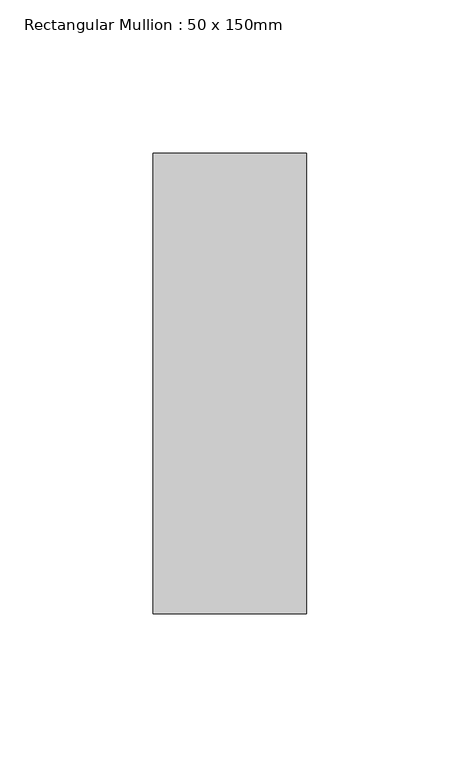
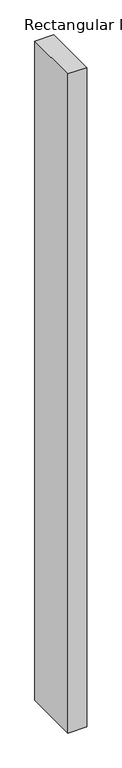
"""IFC4 building model written with IfcOpenShell, lengths in millimetres: member geometry, Rectangular Mullion : 50 x 150mm."""

import ifcopenshell
import ifcopenshell.guid

model = None  # the IFC model being written
_history = None  # IfcOwnerHistory: only IFC2X3 demands one
_inside = {}  # id of a spatial element -> (the spatial element, [elements in it])
_under = {}  # id of a project, library or spatial element -> (it, [spatial elements below it])
_declared = {}  # id of a project -> (the project, [libraries it declares])
_typed = {}  # id of a type object -> (the type object, [elements of that type])
_made_of = {}  # id of a material, layer set ... -> (it, [elements and type objects made of it])


def new_model(schema):
    """Start an empty IFC model of exactly this schema.

    Asked for "IFC4X3", IfcOpenShell would pick the latest addendum, in which some entities
    have other attributes; the version numbers below select the first issue.
    IFC2X3 requires an IfcOwnerHistory on every rooted entity: one is made here for all.
    """
    global model, _history
    if schema == "IFC4X3":
        model = ifcopenshell.file(schema_version=(4, 3, 0, 0))
    else:
        model = ifcopenshell.file(schema=schema)
    _inside.clear()
    _under.clear()
    _declared.clear()
    _typed.clear()
    _made_of.clear()
    _history = None
    if model.schema == "IFC2X3":
        org = make("IfcOrganization", Name="unknown")
        user = make(
            "IfcPersonAndOrganization",
            ThePerson=make("IfcPerson", FamilyName="unknown"),
            TheOrganization=org,
        )
        app = make(
            "IfcApplication",
            ApplicationDeveloper=org,
            Version="unknown",
            ApplicationFullName="unknown",
            ApplicationIdentifier="unknown",
        )
        _history = make(
            "IfcOwnerHistory",
            OwningUser=user,
            OwningApplication=app,
            ChangeAction="ADDED",
            CreationDate=0,
        )
    return model


def make(cls, **values):
    """One entity of the class cls with the attributes given. An attribute that is None is left unset."""
    return model.create_entity(
        cls, **{name: value for name, value in values.items() if value is not None}
    )


def rooted(cls, **values):
    """An entity with a GlobalId (a new one), such as an element, a storey or a relation."""
    return make(cls, GlobalId=ifcopenshell.guid.new(), OwnerHistory=_history, **values)


def si_unit(unit_type, name, prefix=None):
    """IfcSIUnit, for example si_unit("LENGTHUNIT", "METRE", prefix="MILLI")."""
    return make("IfcSIUnit", UnitType=unit_type, Prefix=prefix, Name=name)


def assignment(units):
    """IfcUnitAssignment: the units of a project."""
    return None if units is None else make("IfcUnitAssignment", Units=units)


def point(xyz):
    """IfcCartesianPoint."""
    return None if xyz is None else make("IfcCartesianPoint", Coordinates=xyz)


def direction(xyz):
    """IfcDirection."""
    return None if xyz is None else make("IfcDirection", DirectionRatios=xyz)


def frame(location, z_axis=None, x_axis=None):
    """IfcAxis2Placement3D, a coordinate frame: its origin and axes. An axis left out is left unset."""
    return make(
        "IfcAxis2Placement3D",
        Location=point(location),
        Axis=direction(z_axis),
        RefDirection=direction(x_axis),
    )


def origin():
    """The frame at (0, 0, 0) with its axes left unset."""
    return frame((0.0, 0.0, 0.0))


def place(relative_to, where):
    """IfcLocalPlacement: puts the frame where relative to a parent placement (None: the world)."""
    return make(
        "IfcLocalPlacement", PlacementRelTo=relative_to, RelativePlacement=where
    )


def context(
    kind, dimensions, precision=None, world=None, true_north=None, identifier=None
):
    """IfcGeometricRepresentationContext, for example the 3D "Model" context."""
    return make(
        "IfcGeometricRepresentationContext",
        ContextIdentifier=identifier,
        ContextType=kind,
        CoordinateSpaceDimension=dimensions,
        Precision=precision,
        WorldCoordinateSystem=world,
        TrueNorth=true_north,
    )


def project(units=None, contexts=None):
    """IfcProject with its units and contexts."""
    return rooted(
        "IfcProject",
        Name="project",
        RepresentationContexts=contexts,
        UnitsInContext=assignment(units),
    )


def spatial(cls, under=None, at=None, **own):
    """A site, building, storey or space (cls), placed at a placement, below another one or the project."""
    s = rooted(cls, ObjectPlacement=at, **own)
    if under is not None:
        _under.setdefault(under.id(), (under, []))[1].append(s)
    return s


def polyline(points):
    """IfcPolyline through the points."""
    return make("IfcPolyline", Points=[point(p) for p in points])


def outline(outer, holes=None, kind="AREA"):
    """IfcArbitraryClosedProfileDef: a profile drawn as a closed curve; with holes, ...WithVoids."""
    if holes is None:
        return make("IfcArbitraryClosedProfileDef", ProfileType=kind, OuterCurve=outer)
    return make(
        "IfcArbitraryProfileDefWithVoids",
        ProfileType=kind,
        OuterCurve=outer,
        InnerCurves=holes,
    )


def extrude(swept, where, along, depth):
    """IfcExtrudedAreaSolid: the profile swept, set in the frame where, extruded along a direction by depth."""
    return make(
        "IfcExtrudedAreaSolid",
        SweptArea=swept,
        Position=where,
        ExtrudedDirection=direction(along),
        Depth=depth,
    )


def shape(context_of_items, identifier, shape_type, items):
    """IfcShapeRepresentation: the items that make up one representation, for example the "Body"."""
    return make(
        "IfcShapeRepresentation",
        ContextOfItems=context_of_items,
        RepresentationIdentifier=identifier,
        RepresentationType=shape_type,
        Items=items,
    )


def source(mapping_origin, context_of_items, identifier, shape_type, items):
    """IfcRepresentationMap: a shape defined once, which mapped items show again and again."""
    return make(
        "IfcRepresentationMap",
        MappingOrigin=mapping_origin,
        MappedRepresentation=shape(context_of_items, identifier, shape_type, items),
    )


def transform(
    local_origin,
    x_axis=None,
    y_axis=None,
    z_axis=None,
    scale=None,
    scale2=None,
    scale3=None,
    uniform=True,
):
    """IfcCartesianTransformationOperator3D, or its non-uniform kind. x_axis, y_axis, z_axis: its Axis1, 2, 3."""
    if uniform:
        return make(
            "IfcCartesianTransformationOperator3D",
            Axis1=direction(x_axis),
            Axis2=direction(y_axis),
            LocalOrigin=point(local_origin),
            Scale=scale,
            Axis3=direction(z_axis),
        )
    return make(
        "IfcCartesianTransformationOperator3DnonUniform",
        Axis1=direction(x_axis),
        Axis2=direction(y_axis),
        LocalOrigin=point(local_origin),
        Scale=scale,
        Axis3=direction(z_axis),
        Scale2=scale2,
        Scale3=scale3,
    )


def mapped(mapping_source, mapping_target):
    """IfcMappedItem: shows the shape of a source again, moved by a transform."""
    return make(
        "IfcMappedItem", MappingSource=mapping_source, MappingTarget=mapping_target
    )


def made_of(thing, what):
    """Note that an element or type object is made of a material, layer set ...; save() writes the relation."""
    if what is not None:
        _made_of.setdefault(what.id(), (what, []))[1].append(thing)
    return thing


def element(
    cls,
    number,
    at=None,
    inside=None,
    cuts=None,
    type_object=None,
    material=None,
    context=None,
    identifier="Body",
    shape_type=None,
    held_by="IfcProductDefinitionShape",
    body=None,
    shapes=None,
    **own,
):
    """One element of the class cls, such as IfcWall. Its Tag is "e" and its number.

    at: its placement. inside: the storey or other place that contains it. cuts: it is an
    opening in that element (IfcRelVoidsElement). A single representation is given by context,
    identifier, shape_type and body (its items); several are given by shapes. held_by: the class
    of the entity that holds the representations. save() writes the other relations.
    """
    e = rooted(cls, Tag="e%d" % number, ObjectPlacement=at, **own)
    if body is not None:
        shapes = [shape(context, identifier, shape_type, body)]
    if shapes is not None:
        e.Representation = make(held_by, Representations=shapes)
    if inside is not None:
        _inside.setdefault(inside.id(), (inside, []))[1].append(e)
    if cuts is not None:
        rooted(
            "IfcRelVoidsElement", RelatingBuildingElement=cuts, RelatedOpeningElement=e
        )
    if type_object is not None:
        _typed.setdefault(type_object.id(), (type_object, []))[1].append(e)
    return made_of(e, material)


def aggregate(whole, parts):
    """IfcRelAggregates: a whole, such as a stair, and the parts it consists of."""
    return rooted("IfcRelAggregates", RelatingObject=whole, RelatedObjects=parts)


def save(model, path):
    """Write the relations noted so far, then the file.

    IfcRelAggregates (storeys below a building ...), IfcRelContainedInSpatialStructure (elements
    in a storey), IfcRelDefinesByType, IfcRelAssociatesMaterial and IfcRelDeclares: one each for
    every whole, place, type object, material and project.
    """
    for whole, parts in _under.values():
        aggregate(whole, parts)
    for where, things in _inside.values():
        rooted(
            "IfcRelContainedInSpatialStructure",
            RelatedElements=things,
            RelatingStructure=where,
        )
    for kind, things in _typed.values():
        rooted("IfcRelDefinesByType", RelatedObjects=things, RelatingType=kind)
    for what, things in _made_of.values():
        rooted("IfcRelAssociatesMaterial", RelatedObjects=things, RelatingMaterial=what)
    for by, libraries in _declared.values():
        rooted("IfcRelDeclares", RelatingContext=by, RelatedDefinitions=libraries)
    model.write(path)


def rectangular_mullion_50_x_150mm_79aa15db(model_context):
    return source(origin(), model_context, "Body", "SweptSolid", [
        extrude(outline(polyline([(0.0, 75.0), (0.0, -75.0), (-50.0, -75.0), (-50.0, 75.0), (0.0, 75.0)])), frame((0.0, 0.0, -1831.43401), z_axis=(0.0, 0.0, 1.0), x_axis=(1.0, 0.0, 0.0)), (0.0, 0.0, 1.0), 1831.43401),
    ])


if __name__ == "__main__":
    model = new_model("IFC4")
    model_context = context("Model", 3, world=origin())
    ifc_project = project(units=[si_unit("LENGTHUNIT", "METRE", prefix="MILLI")], contexts=[model_context])
    site = spatial("IfcSite", under=ifc_project)
    building = spatial("IfcBuilding", under=site)
    placement = place(None, origin())
    rectangular_mullion_50_x_150mm_shape = rectangular_mullion_50_x_150mm_79aa15db(model_context)
    element("IfcMember", 1, ObjectType="Rectangular Mullion : 50 x 150mm", at=placement, inside=building, context=model_context, shape_type="MappedRepresentation", body=[
        mapped(rectangular_mullion_50_x_150mm_shape, transform((0.0, 0.0, 0.0), x_axis=(1.0, 0.0, 0.0), y_axis=(0.0, 1.0, 0.0), z_axis=(0.0, 0.0, 1.0))),
    ])
    save(model, "model.ifc")
